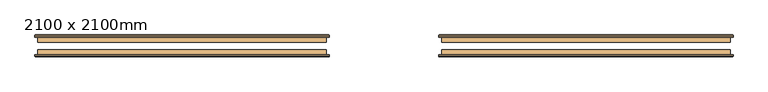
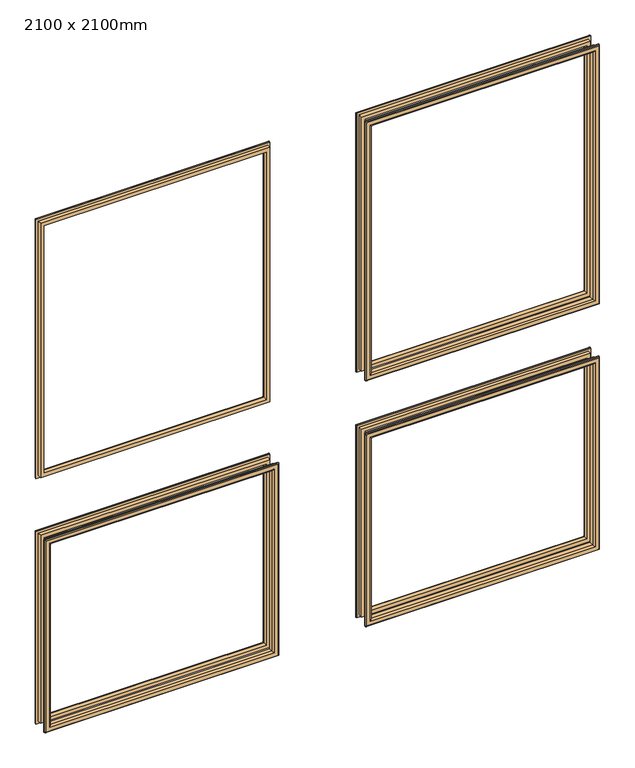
"""IFC4 building model written with IfcOpenShell, lengths in millimetres: door geometry, Дверь-Наружная-Двойная-Две_Свет : 2100 x 2100mm."""

from ifc_helpers import new_model, si_unit, frame, origin, place, context, project, spatial, ellipse_curve, source, transform, mapped, element, save
from ifc_brep_helpers import plane_surface, cylinder_surface, advanced_brep


def door_2100_x_2100mm_2986aa5a(model_context):
    return source(origin(), model_context, "Body", "AdvancedBrep", [
        advanced_brep(
        [(-900.0, 68.85, 900.0), (-900.0, 81.35, 900.0), (-900.0, 81.35, 250.0), (-900.0, 68.85, 250.0), (-888.0, 82.35, 888.0), (-888.0, 68.85, 888.0), (-888.0, 68.85, 262.0), (-888.0, 82.35, 262.0), (-893.0, 87.35, 893.0), (-893.0, 87.35, 257.0), (-908.0, 85.35, 908.0), (-906.0, 87.35, 906.0), (-906.0, 87.35, 244.0), (-908.0, 85.35, 242.0), (-908.0, 81.35, 908.0), (-908.0, 81.35, 242.0), (-150.0, 81.35, 250.0), (-150.0, 68.85, 250.0), (-162.0, 68.85, 262.0), (-162.0, 82.35, 262.0), (-157.0, 87.35, 257.0), (-144.0, 87.35, 244.0), (-142.0, 85.35, 242.0), (-142.0, 81.35, 242.0), (-150.0, 81.35, 900.0), (-150.0, 68.85, 900.0), (-162.0, 68.85, 888.0), (-162.0, 82.35, 888.0), (-157.0, 87.35, 893.0), (-144.0, 87.35, 906.0), (-142.0, 85.35, 908.0), (-142.0, 81.35, 908.0)],
        [
            (0, 1),
            (1, 2),
            (2, 3),
            (3, 0),
            (4, 5),
            (5, 6),
            (6, 7),
            (7, 4),
            (8, 4, ellipse_curve(frame((-893.0, 82.35, 893.0), z_axis=(-0.7071067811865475, 0.0, -0.7071067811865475), x_axis=(-0.7071067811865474, 0.0, 0.7071067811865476)), 7.0710678, 5.0)),
            (7, 9, ellipse_curve(frame((-893.0, 82.35, 257.0), z_axis=(-0.7071067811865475, 0.0, 0.7071067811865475), x_axis=(0.7071067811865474, 0.0, 0.7071067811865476)), 7.0710678, 5.0)),
            (9, 8),
            (10, 11, ellipse_curve(frame((-906.0, 85.35, 906.0), z_axis=(-0.7071067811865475, 0.0, -0.7071067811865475), x_axis=(-0.7071067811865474, 0.0, 0.7071067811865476)), 2.8284271, 2.0)),
            (11, 12),
            (12, 13, ellipse_curve(frame((-906.0, 85.35, 244.0), z_axis=(-0.7071067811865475, 0.0, 0.7071067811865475), x_axis=(0.7071067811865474, 0.0, 0.7071067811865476)), 2.8284271, 2.0)),
            (13, 10),
            (14, 10),
            (13, 15),
            (15, 14),
            (2, 16),
            (16, 17),
            (17, 3),
            (6, 18),
            (18, 19),
            (19, 7),
            (19, 20, ellipse_curve(frame((-157.0, 82.35, 257.0), z_axis=(-0.7071067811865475, 0.0, -0.7071067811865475), x_axis=(-0.7071067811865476, 0.0, 0.7071067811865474)), 7.0710678, 5.0)),
            (20, 9),
            (12, 21),
            (21, 22, ellipse_curve(frame((-144.0, 85.35, 244.0), z_axis=(-0.7071067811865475, 0.0, -0.7071067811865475), x_axis=(-0.7071067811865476, 0.0, 0.7071067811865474)), 2.8284271, 2.0)),
            (22, 13),
            (22, 23),
            (23, 15),
            (16, 24),
            (24, 25),
            (25, 17),
            (18, 26),
            (26, 27),
            (27, 19),
            (27, 28, ellipse_curve(frame((-157.0, 82.35, 893.0), z_axis=(0.7071067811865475, 0.0, -0.7071067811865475), x_axis=(-0.7071067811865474, 0.0, -0.7071067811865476)), 7.0710678, 5.0)),
            (28, 20),
            (21, 29),
            (29, 30, ellipse_curve(frame((-144.0, 85.35, 906.0), z_axis=(0.7071067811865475, 0.0, -0.7071067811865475), x_axis=(-0.7071067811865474, 0.0, -0.7071067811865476)), 2.8284271, 2.0)),
            (30, 22),
            (30, 31),
            (31, 23),
            (31, 14),
            (1, 24),
            (0, 25),
            (5, 26),
            (4, 27),
            (8, 28),
            (11, 29),
            (10, 30),
        ],
        [
            plane_surface(frame((-900.0, 81.35, 900.0), z_axis=(-1.0, 0.0, 0.0), x_axis=(0.0, 0.0, -1.0))),
            plane_surface(frame((-888.0, 68.85, 888.0), z_axis=(1.0, 0.0, 0.0), x_axis=(0.0, 0.0, -1.0))),
            cylinder_surface(frame((-893.0, 82.35, 900.0), z_axis=(0.0, 0.0, 1.0), x_axis=(-1.0, 0.0, 0.0)), 5.0),
            cylinder_surface(frame((-906.0, 85.35, 900.0), z_axis=(0.0, 0.0, 1.0), x_axis=(-1.0, 0.0, 0.0)), 2.0),
            plane_surface(frame((-908.0, 85.35, 908.0), z_axis=(-1.0, 0.0, 0.0), x_axis=(0.0, 0.0, -1.0))),
            plane_surface(frame((-900.0, 81.35, 250.0), z_axis=(0.0, 0.0, -1.0), x_axis=(1.0, 0.0, 0.0))),
            plane_surface(frame((-888.0, 68.85, 262.0), z_axis=(0.0, 0.0, 1.0), x_axis=(1.0, 0.0, 0.0))),
            cylinder_surface(frame((-900.0, 82.35, 257.0), z_axis=(-1.0, 0.0, 0.0), x_axis=(0.0, 0.0, -1.0)), 5.0),
            cylinder_surface(frame((-900.0, 85.35, 244.0), z_axis=(-1.0, 0.0, 0.0), x_axis=(0.0, 0.0, -1.0)), 2.0),
            plane_surface(frame((-908.0, 85.35, 242.0), z_axis=(0.0, 0.0, -1.0), x_axis=(1.0, 0.0, 0.0))),
            plane_surface(frame((-150.0, 81.35, 250.0), z_axis=(1.0, 0.0, 0.0), x_axis=(0.0, 0.0, 1.0))),
            plane_surface(frame((-162.0, 68.85, 262.0), z_axis=(-1.0, 0.0, 0.0), x_axis=(0.0, 0.0, 1.0))),
            cylinder_surface(frame((-157.0, 82.35, 250.0), z_axis=(0.0, 0.0, -1.0), x_axis=(1.0, 0.0, 0.0)), 5.0),
            cylinder_surface(frame((-144.0, 85.35, 250.0), z_axis=(0.0, 0.0, -1.0), x_axis=(1.0, 0.0, 0.0)), 2.0),
            plane_surface(frame((-142.0, 85.35, 242.0), z_axis=(1.0, 0.0, 0.0), x_axis=(0.0, 0.0, 1.0))),
            plane_surface(frame((-142.0, 81.35, 908.0), z_axis=(0.0, -1.0, 0.0), x_axis=(-1.0, 0.0, 0.0))),
            plane_surface(frame((-150.0, 81.35, 900.0), z_axis=(0.0, 0.0, 1.0), x_axis=(-1.0, 0.0, 0.0))),
            plane_surface(frame((-150.0, 68.85, 900.0), z_axis=(0.0, -1.0, 0.0), x_axis=(-1.0, 0.0, 0.0))),
            plane_surface(frame((-162.0, 68.85, 888.0), z_axis=(0.0, 0.0, -1.0), x_axis=(-1.0, 0.0, 0.0))),
            cylinder_surface(frame((-150.0, 82.35, 893.0), z_axis=(1.0, 0.0, 0.0), x_axis=(0.0, 0.0, 1.0)), 5.0),
            plane_surface(frame((-157.0, 87.35, 893.0), z_axis=(0.0, 1.0, 0.0), x_axis=(-1.0, 0.0, 0.0))),
            cylinder_surface(frame((-150.0, 85.35, 906.0), z_axis=(1.0, 0.0, 0.0), x_axis=(0.0, 0.0, 1.0)), 2.0),
            plane_surface(frame((-142.0, 85.35, 908.0), z_axis=(0.0, 0.0, 1.0), x_axis=(-1.0, 0.0, 0.0))),
        ],
        [
            (0, [[1, 2, 3, 4]]),
            (1, [[5, 6, 7, 8]]),
            (2, [[9, -8, 10, 11]]),
            (3, [[12, 13, 14, 15]]),
            (4, [[16, -15, 17, 18]]),
            (5, [[-3, 19, 20, 21]]),
            (6, [[-7, 22, 23, 24]]),
            (7, [[-10, -24, 25, 26]]),
            (8, [[-14, 27, 28, 29]]),
            (9, [[-17, -29, 30, 31]]),
            (10, [[-20, 32, 33, 34]]),
            (11, [[-23, 35, 36, 37]]),
            (12, [[-25, -37, 38, 39]]),
            (13, [[-28, 40, 41, 42]]),
            (14, [[-30, -42, 43, 44]]),
            (15, [[-31, -44, 45, -18], [46, -32, -19, -2]]),
            (16, [[-33, -46, -1, 47]]),
            (17, [[-21, -34, -47, -4], [48, -35, -22, -6]]),
            (18, [[-36, -48, -5, 49]]),
            (19, [[-38, -49, -9, 50]]),
            (20, [[51, -40, -27, -13], [-26, -39, -50, -11]]),
            (21, [[-41, -51, -12, 52]]),
            (22, [[-43, -52, -16, -45]]),
        ],
    ),
        advanced_brep(
        [(150.0, 68.85, 900.0), (150.0, 81.35, 900.0), (150.0, 81.35, 250.0), (150.0, 68.85, 250.0), (162.0, 82.35, 888.0), (162.0, 68.85, 888.0), (162.0, 68.85, 262.0), (162.0, 82.35, 262.0), (157.0, 87.35, 893.0), (157.0, 87.35, 257.0), (142.0, 85.35, 908.0), (144.0, 87.35, 906.0), (144.0, 87.35, 244.0), (142.0, 85.35, 242.0), (142.0, 81.35, 908.0), (142.0, 81.35, 242.0), (900.0, 81.35, 250.0), (900.0, 68.85, 250.0), (888.0, 68.85, 262.0), (888.0, 82.35, 262.0), (893.0, 87.35, 257.0), (906.0, 87.35, 244.0), (908.0, 85.35, 242.0), (908.0, 81.35, 242.0), (900.0, 81.35, 900.0), (900.0, 68.85, 900.0), (888.0, 68.85, 888.0), (888.0, 82.35, 888.0), (893.0, 87.35, 893.0), (906.0, 87.35, 906.0), (908.0, 85.35, 908.0), (908.0, 81.35, 908.0)],
        [
            (0, 1),
            (1, 2),
            (2, 3),
            (3, 0),
            (4, 5),
            (5, 6),
            (6, 7),
            (7, 4),
            (8, 4, ellipse_curve(frame((157.0, 82.35, 893.0), z_axis=(-0.7071067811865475, 0.0, -0.7071067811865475), x_axis=(-0.7071067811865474, 0.0, 0.7071067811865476)), 7.0710678, 5.0)),
            (7, 9, ellipse_curve(frame((157.0, 82.35, 257.0), z_axis=(-0.7071067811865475, 0.0, 0.7071067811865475), x_axis=(0.7071067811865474, 0.0, 0.7071067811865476)), 7.0710678, 5.0)),
            (9, 8),
            (10, 11, ellipse_curve(frame((144.0, 85.35, 906.0), z_axis=(-0.7071067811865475, 0.0, -0.7071067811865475), x_axis=(-0.7071067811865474, 0.0, 0.7071067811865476)), 2.8284271, 2.0)),
            (11, 12),
            (12, 13, ellipse_curve(frame((144.0, 85.35, 244.0), z_axis=(-0.7071067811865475, 0.0, 0.7071067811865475), x_axis=(0.7071067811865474, 0.0, 0.7071067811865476)), 2.8284271, 2.0)),
            (13, 10),
            (14, 10),
            (13, 15),
            (15, 14),
            (2, 16),
            (16, 17),
            (17, 3),
            (6, 18),
            (18, 19),
            (19, 7),
            (19, 20, ellipse_curve(frame((893.0, 82.35, 257.0), z_axis=(-0.7071067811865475, 0.0, -0.7071067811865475), x_axis=(-0.7071067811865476, 0.0, 0.7071067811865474)), 7.0710678, 5.0)),
            (20, 9),
            (12, 21),
            (21, 22, ellipse_curve(frame((906.0, 85.35, 244.0), z_axis=(-0.7071067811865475, 0.0, -0.7071067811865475), x_axis=(-0.7071067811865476, 0.0, 0.7071067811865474)), 2.8284271, 2.0)),
            (22, 13),
            (22, 23),
            (23, 15),
            (16, 24),
            (24, 25),
            (25, 17),
            (18, 26),
            (26, 27),
            (27, 19),
            (27, 28, ellipse_curve(frame((893.0, 82.35, 893.0), z_axis=(0.7071067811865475, 0.0, -0.7071067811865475), x_axis=(-0.7071067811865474, 0.0, -0.7071067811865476)), 7.0710678, 5.0)),
            (28, 20),
            (21, 29),
            (29, 30, ellipse_curve(frame((906.0, 85.35, 906.0), z_axis=(0.7071067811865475, 0.0, -0.7071067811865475), x_axis=(-0.7071067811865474, 0.0, -0.7071067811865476)), 2.8284271, 2.0)),
            (30, 22),
            (30, 31),
            (31, 23),
            (31, 14),
            (1, 24),
            (0, 25),
            (5, 26),
            (4, 27),
            (8, 28),
            (11, 29),
            (10, 30),
        ],
        [
            plane_surface(frame((150.0, 81.35, 900.0), z_axis=(-1.0, 0.0, 0.0), x_axis=(0.0, 0.0, -1.0))),
            plane_surface(frame((162.0, 68.85, 888.0), z_axis=(1.0, 0.0, 0.0), x_axis=(0.0, 0.0, -1.0))),
            cylinder_surface(frame((157.0, 82.35, 900.0), z_axis=(0.0, 0.0, 1.0), x_axis=(-1.0, 0.0, 0.0)), 5.0),
            cylinder_surface(frame((144.0, 85.35, 900.0), z_axis=(0.0, 0.0, 1.0), x_axis=(-1.0, 0.0, 0.0)), 2.0),
            plane_surface(frame((142.0, 85.35, 908.0), z_axis=(-1.0, 0.0, 0.0), x_axis=(0.0, 0.0, -1.0))),
            plane_surface(frame((150.0, 81.35, 250.0), z_axis=(0.0, 0.0, -1.0), x_axis=(1.0, 0.0, 0.0))),
            plane_surface(frame((162.0, 68.85, 262.0), z_axis=(0.0, 0.0, 1.0), x_axis=(1.0, 0.0, 0.0))),
            cylinder_surface(frame((150.0, 82.35, 257.0), z_axis=(-1.0, 0.0, 0.0), x_axis=(0.0, 0.0, -1.0)), 5.0),
            cylinder_surface(frame((150.0, 85.35, 244.0), z_axis=(-1.0, 0.0, 0.0), x_axis=(0.0, 0.0, -1.0)), 2.0),
            plane_surface(frame((142.0, 85.35, 242.0), z_axis=(0.0, 0.0, -1.0), x_axis=(1.0, 0.0, 0.0))),
            plane_surface(frame((900.0, 81.35, 250.0), z_axis=(1.0, 0.0, 0.0), x_axis=(0.0, 0.0, 1.0))),
            plane_surface(frame((888.0, 68.85, 262.0), z_axis=(-1.0, 0.0, 0.0), x_axis=(0.0, 0.0, 1.0))),
            cylinder_surface(frame((893.0, 82.35, 250.0), z_axis=(0.0, 0.0, -1.0), x_axis=(1.0, 0.0, 0.0)), 5.0),
            cylinder_surface(frame((906.0, 85.35, 250.0), z_axis=(0.0, 0.0, -1.0), x_axis=(1.0, 0.0, 0.0)), 2.0),
            plane_surface(frame((908.0, 85.35, 242.0), z_axis=(1.0, 0.0, 0.0), x_axis=(0.0, 0.0, 1.0))),
            plane_surface(frame((908.0, 81.35, 908.0), z_axis=(0.0, -1.0, 0.0), x_axis=(-1.0, 0.0, 0.0))),
            plane_surface(frame((900.0, 81.35, 900.0), z_axis=(0.0, 0.0, 1.0), x_axis=(-1.0, 0.0, 0.0))),
            plane_surface(frame((900.0, 68.85, 900.0), z_axis=(0.0, -1.0, 0.0), x_axis=(-1.0, 0.0, 0.0))),
            plane_surface(frame((888.0, 68.85, 888.0), z_axis=(0.0, 0.0, -1.0), x_axis=(-1.0, 0.0, 0.0))),
            cylinder_surface(frame((900.0, 82.35, 893.0), z_axis=(1.0, 0.0, 0.0), x_axis=(0.0, 0.0, 1.0)), 5.0),
            plane_surface(frame((893.0, 87.35, 893.0), z_axis=(0.0, 1.0, 0.0), x_axis=(-1.0, 0.0, 0.0))),
            cylinder_surface(frame((900.0, 85.35, 906.0), z_axis=(1.0, 0.0, 0.0), x_axis=(0.0, 0.0, 1.0)), 2.0),
            plane_surface(frame((908.0, 85.35, 908.0), z_axis=(0.0, 0.0, 1.0), x_axis=(-1.0, 0.0, 0.0))),
        ],
        [
            (0, [[1, 2, 3, 4]]),
            (1, [[5, 6, 7, 8]]),
            (2, [[9, -8, 10, 11]]),
            (3, [[12, 13, 14, 15]]),
            (4, [[16, -15, 17, 18]]),
            (5, [[-3, 19, 20, 21]]),
            (6, [[-7, 22, 23, 24]]),
            (7, [[-10, -24, 25, 26]]),
            (8, [[-14, 27, 28, 29]]),
            (9, [[-17, -29, 30, 31]]),
            (10, [[-20, 32, 33, 34]]),
            (11, [[-23, 35, 36, 37]]),
            (12, [[-25, -37, 38, 39]]),
            (13, [[-28, 40, 41, 42]]),
            (14, [[-30, -42, 43, 44]]),
            (15, [[-31, -44, 45, -18], [46, -32, -19, -2]]),
            (16, [[-33, -46, -1, 47]]),
            (17, [[-21, -34, -47, -4], [48, -35, -22, -6]]),
            (18, [[-36, -48, -5, 49]]),
            (19, [[-38, -49, -9, 50]]),
            (20, [[51, -40, -27, -13], [-26, -39, -50, -11]]),
            (21, [[-41, -51, -12, 52]]),
            (22, [[-43, -52, -16, -45]]),
        ],
    ),
        advanced_brep(
        [(150.0, 68.85, 1980.0), (150.0, 81.35, 1980.0), (150.0, 81.35, 1100.0), (150.0, 68.85, 1100.0), (162.0, 82.35, 1968.0), (162.0, 68.85, 1968.0), (162.0, 68.85, 1112.0), (162.0, 82.35, 1112.0), (157.0, 87.35, 1973.0), (157.0, 87.35, 1107.0), (142.0, 85.35, 1988.0), (144.0, 87.35, 1986.0), (144.0, 87.35, 1094.0), (142.0, 85.35, 1092.0), (142.0, 81.35, 1988.0), (142.0, 81.35, 1092.0), (900.0, 81.35, 1100.0), (900.0, 68.85, 1100.0), (888.0, 68.85, 1112.0), (888.0, 82.35, 1112.0), (893.0, 87.35, 1107.0), (906.0, 87.35, 1094.0), (908.0, 85.35, 1092.0), (908.0, 81.35, 1092.0), (900.0, 81.35, 1980.0), (900.0, 68.85, 1980.0), (888.0, 68.85, 1968.0), (888.0, 82.35, 1968.0), (893.0, 87.35, 1973.0), (906.0, 87.35, 1986.0), (908.0, 85.35, 1988.0), (908.0, 81.35, 1988.0)],
        [
            (0, 1),
            (1, 2),
            (2, 3),
            (3, 0),
            (4, 5),
            (5, 6),
            (6, 7),
            (7, 4),
            (8, 4, ellipse_curve(frame((157.0, 82.35, 1973.0), z_axis=(-0.7071067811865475, 0.0, -0.7071067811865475), x_axis=(-0.7071067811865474, 0.0, 0.7071067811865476)), 7.0710678, 5.0)),
            (7, 9, ellipse_curve(frame((157.0, 82.35, 1107.0), z_axis=(-0.7071067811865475, 0.0, 0.7071067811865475), x_axis=(0.7071067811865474, 0.0, 0.7071067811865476)), 7.0710678, 5.0)),
            (9, 8),
            (10, 11, ellipse_curve(frame((144.0, 85.35, 1986.0), z_axis=(-0.7071067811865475, 0.0, -0.7071067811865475), x_axis=(-0.7071067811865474, 0.0, 0.7071067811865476)), 2.8284271, 2.0)),
            (11, 12),
            (12, 13, ellipse_curve(frame((144.0, 85.35, 1094.0), z_axis=(-0.7071067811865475, 0.0, 0.7071067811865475), x_axis=(0.7071067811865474, 0.0, 0.7071067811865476)), 2.8284271, 2.0)),
            (13, 10),
            (14, 10),
            (13, 15),
            (15, 14),
            (2, 16),
            (16, 17),
            (17, 3),
            (6, 18),
            (18, 19),
            (19, 7),
            (19, 20, ellipse_curve(frame((893.0, 82.35, 1107.0), z_axis=(-0.7071067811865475, 0.0, -0.7071067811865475), x_axis=(-0.7071067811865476, 0.0, 0.7071067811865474)), 7.0710678, 5.0)),
            (20, 9),
            (12, 21),
            (21, 22, ellipse_curve(frame((906.0, 85.35, 1094.0), z_axis=(-0.7071067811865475, 0.0, -0.7071067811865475), x_axis=(-0.7071067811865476, 0.0, 0.7071067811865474)), 2.8284271, 2.0)),
            (22, 13),
            (22, 23),
            (23, 15),
            (16, 24),
            (24, 25),
            (25, 17),
            (18, 26),
            (26, 27),
            (27, 19),
            (27, 28, ellipse_curve(frame((893.0, 82.35, 1973.0), z_axis=(0.7071067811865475, 0.0, -0.7071067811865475), x_axis=(-0.7071067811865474, 0.0, -0.7071067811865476)), 7.0710678, 5.0)),
            (28, 20),
            (21, 29),
            (29, 30, ellipse_curve(frame((906.0, 85.35, 1986.0), z_axis=(0.7071067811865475, 0.0, -0.7071067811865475), x_axis=(-0.7071067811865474, 0.0, -0.7071067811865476)), 2.8284271, 2.0)),
            (30, 22),
            (30, 31),
            (31, 23),
            (31, 14),
            (1, 24),
            (0, 25),
            (5, 26),
            (4, 27),
            (8, 28),
            (11, 29),
            (10, 30),
        ],
        [
            plane_surface(frame((150.0, 81.35, 1980.0), z_axis=(-1.0, 0.0, 0.0), x_axis=(0.0, 0.0, -1.0))),
            plane_surface(frame((162.0, 68.85, 1968.0), z_axis=(1.0, 0.0, 0.0), x_axis=(0.0, 0.0, -1.0))),
            cylinder_surface(frame((157.0, 82.35, 1980.0), z_axis=(0.0, 0.0, 1.0), x_axis=(-1.0, 0.0, 0.0)), 5.0),
            cylinder_surface(frame((144.0, 85.35, 1980.0), z_axis=(0.0, 0.0, 1.0), x_axis=(-1.0, 0.0, 0.0)), 2.0),
            plane_surface(frame((142.0, 85.35, 1988.0), z_axis=(-1.0, 0.0, 0.0), x_axis=(0.0, 0.0, -1.0))),
            plane_surface(frame((150.0, 81.35, 1100.0), z_axis=(0.0, 0.0, -1.0), x_axis=(1.0, 0.0, 0.0))),
            plane_surface(frame((162.0, 68.85, 1112.0), z_axis=(0.0, 0.0, 1.0), x_axis=(1.0, 0.0, 0.0))),
            cylinder_surface(frame((150.0, 82.35, 1107.0), z_axis=(-1.0, 0.0, 0.0), x_axis=(0.0, 0.0, -1.0)), 5.0),
            cylinder_surface(frame((150.0, 85.35, 1094.0), z_axis=(-1.0, 0.0, 0.0), x_axis=(0.0, 0.0, -1.0)), 2.0),
            plane_surface(frame((142.0, 85.35, 1092.0), z_axis=(0.0, 0.0, -1.0), x_axis=(1.0, 0.0, 0.0))),
            plane_surface(frame((900.0, 81.35, 1100.0), z_axis=(1.0, 0.0, 0.0), x_axis=(0.0, 0.0, 1.0))),
            plane_surface(frame((888.0, 68.85, 1112.0), z_axis=(-1.0, 0.0, 0.0), x_axis=(0.0, 0.0, 1.0))),
            cylinder_surface(frame((893.0, 82.35, 1100.0), z_axis=(0.0, 0.0, -1.0), x_axis=(1.0, 0.0, 0.0)), 5.0),
            cylinder_surface(frame((906.0, 85.35, 1100.0), z_axis=(0.0, 0.0, -1.0), x_axis=(1.0, 0.0, 0.0)), 2.0),
            plane_surface(frame((908.0, 85.35, 1092.0), z_axis=(1.0, 0.0, 0.0), x_axis=(0.0, 0.0, 1.0))),
            plane_surface(frame((908.0, 81.35, 1988.0), z_axis=(0.0, -1.0, 0.0), x_axis=(-1.0, 0.0, 0.0))),
            plane_surface(frame((900.0, 81.35, 1980.0), z_axis=(0.0, 0.0, 1.0), x_axis=(-1.0, 0.0, 0.0))),
            plane_surface(frame((900.0, 68.85, 1980.0), z_axis=(0.0, -1.0, 0.0), x_axis=(-1.0, 0.0, 0.0))),
            plane_surface(frame((888.0, 68.85, 1968.0), z_axis=(0.0, 0.0, -1.0), x_axis=(-1.0, 0.0, 0.0))),
            cylinder_surface(frame((900.0, 82.35, 1973.0), z_axis=(1.0, 0.0, 0.0), x_axis=(0.0, 0.0, 1.0)), 5.0),
            plane_surface(frame((893.0, 87.35, 1973.0), z_axis=(0.0, 1.0, 0.0), x_axis=(-1.0, 0.0, 0.0))),
            cylinder_surface(frame((900.0, 85.35, 1986.0), z_axis=(1.0, 0.0, 0.0), x_axis=(0.0, 0.0, 1.0)), 2.0),
            plane_surface(frame((908.0, 85.35, 1988.0), z_axis=(0.0, 0.0, 1.0), x_axis=(-1.0, 0.0, 0.0))),
        ],
        [
            (0, [[1, 2, 3, 4]]),
            (1, [[5, 6, 7, 8]]),
            (2, [[9, -8, 10, 11]]),
            (3, [[12, 13, 14, 15]]),
            (4, [[16, -15, 17, 18]]),
            (5, [[-3, 19, 20, 21]]),
            (6, [[-7, 22, 23, 24]]),
            (7, [[-10, -24, 25, 26]]),
            (8, [[-14, 27, 28, 29]]),
            (9, [[-17, -29, 30, 31]]),
            (10, [[-20, 32, 33, 34]]),
            (11, [[-23, 35, 36, 37]]),
            (12, [[-25, -37, 38, 39]]),
            (13, [[-28, 40, 41, 42]]),
            (14, [[-30, -42, 43, 44]]),
            (15, [[-31, -44, 45, -18], [46, -32, -19, -2]]),
            (16, [[-33, -46, -1, 47]]),
            (17, [[-21, -34, -47, -4], [48, -35, -22, -6]]),
            (18, [[-36, -48, -5, 49]]),
            (19, [[-38, -49, -9, 50]]),
            (20, [[51, -40, -27, -13], [-26, -39, -50, -11]]),
            (21, [[-41, -51, -12, 52]]),
            (22, [[-43, -52, -16, -45]]),
        ],
    ),
        advanced_brep(
        [(-900.0, 68.85, 1980.0), (-900.0, 81.35, 1980.0), (-900.0, 81.35, 1100.0), (-900.0, 68.85, 1100.0), (-888.0, 82.35, 1968.0), (-888.0, 68.85, 1968.0), (-888.0, 68.85, 1112.0), (-888.0, 82.35, 1112.0), (-893.0, 87.35, 1973.0), (-893.0, 87.35, 1107.0), (-908.0, 85.35, 1988.0), (-906.0, 87.35, 1986.0), (-906.0, 87.35, 1094.0), (-908.0, 85.35, 1092.0), (-908.0, 81.35, 1988.0), (-908.0, 81.35, 1092.0), (-150.0, 81.35, 1100.0), (-150.0, 68.85, 1100.0), (-162.0, 68.85, 1112.0), (-162.0, 82.35, 1112.0), (-157.0, 87.35, 1107.0), (-144.0, 87.35, 1094.0), (-142.0, 85.35, 1092.0), (-142.0, 81.35, 1092.0), (-150.0, 81.35, 1980.0), (-150.0, 68.85, 1980.0), (-162.0, 68.85, 1968.0), (-162.0, 82.35, 1968.0), (-157.0, 87.35, 1973.0), (-144.0, 87.35, 1986.0), (-142.0, 85.35, 1988.0), (-142.0, 81.35, 1988.0)],
        [
            (0, 1),
            (1, 2),
            (2, 3),
            (3, 0),
            (4, 5),
            (5, 6),
            (6, 7),
            (7, 4),
            (8, 4, ellipse_curve(frame((-893.0, 82.35, 1973.0), z_axis=(-0.7071067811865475, 0.0, -0.7071067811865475), x_axis=(-0.7071067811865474, 0.0, 0.7071067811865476)), 7.0710678, 5.0)),
            (7, 9, ellipse_curve(frame((-893.0, 82.35, 1107.0), z_axis=(-0.7071067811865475, 0.0, 0.7071067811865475), x_axis=(0.7071067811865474, 0.0, 0.7071067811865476)), 7.0710678, 5.0)),
            (9, 8),
            (10, 11, ellipse_curve(frame((-906.0, 85.35, 1986.0), z_axis=(-0.7071067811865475, 0.0, -0.7071067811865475), x_axis=(-0.7071067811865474, 0.0, 0.7071067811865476)), 2.8284271, 2.0)),
            (11, 12),
            (12, 13, ellipse_curve(frame((-906.0, 85.35, 1094.0), z_axis=(-0.7071067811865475, 0.0, 0.7071067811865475), x_axis=(0.7071067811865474, 0.0, 0.7071067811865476)), 2.8284271, 2.0)),
            (13, 10),
            (14, 10),
            (13, 15),
            (15, 14),
            (2, 16),
            (16, 17),
            (17, 3),
            (6, 18),
            (18, 19),
            (19, 7),
            (19, 20, ellipse_curve(frame((-157.0, 82.35, 1107.0), z_axis=(-0.7071067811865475, 0.0, -0.7071067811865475), x_axis=(-0.7071067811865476, 0.0, 0.7071067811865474)), 7.0710678, 5.0)),
            (20, 9),
            (12, 21),
            (21, 22, ellipse_curve(frame((-144.0, 85.35, 1094.0), z_axis=(-0.7071067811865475, 0.0, -0.7071067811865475), x_axis=(-0.7071067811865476, 0.0, 0.7071067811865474)), 2.8284271, 2.0)),
            (22, 13),
            (22, 23),
            (23, 15),
            (16, 24),
            (24, 25),
            (25, 17),
            (18, 26),
            (26, 27),
            (27, 19),
            (27, 28, ellipse_curve(frame((-157.0, 82.35, 1973.0), z_axis=(0.7071067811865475, 0.0, -0.7071067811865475), x_axis=(-0.7071067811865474, 0.0, -0.7071067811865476)), 7.0710678, 5.0)),
            (28, 20),
            (21, 29),
            (29, 30, ellipse_curve(frame((-144.0, 85.35, 1986.0), z_axis=(0.7071067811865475, 0.0, -0.7071067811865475), x_axis=(-0.7071067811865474, 0.0, -0.7071067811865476)), 2.8284271, 2.0)),
            (30, 22),
            (30, 31),
            (31, 23),
            (31, 14),
            (1, 24),
            (0, 25),
            (5, 26),
            (4, 27),
            (8, 28),
            (11, 29),
            (10, 30),
        ],
        [
            plane_surface(frame((-900.0, 81.35, 1980.0), z_axis=(-1.0, 0.0, 0.0), x_axis=(0.0, 0.0, -1.0))),
            plane_surface(frame((-888.0, 68.85, 1968.0), z_axis=(1.0, 0.0, 0.0), x_axis=(0.0, 0.0, -1.0))),
            cylinder_surface(frame((-893.0, 82.35, 1980.0), z_axis=(0.0, 0.0, 1.0), x_axis=(-1.0, 0.0, 0.0)), 5.0),
            cylinder_surface(frame((-906.0, 85.35, 1980.0), z_axis=(0.0, 0.0, 1.0), x_axis=(-1.0, 0.0, 0.0)), 2.0),
            plane_surface(frame((-908.0, 85.35, 1988.0), z_axis=(-1.0, 0.0, 0.0), x_axis=(0.0, 0.0, -1.0))),
            plane_surface(frame((-900.0, 81.35, 1100.0), z_axis=(0.0, 0.0, -1.0), x_axis=(1.0, 0.0, 0.0))),
            plane_surface(frame((-888.0, 68.85, 1112.0), z_axis=(0.0, 0.0, 1.0), x_axis=(1.0, 0.0, 0.0))),
            cylinder_surface(frame((-900.0, 82.35, 1107.0), z_axis=(-1.0, 0.0, 0.0), x_axis=(0.0, 0.0, -1.0)), 5.0),
            cylinder_surface(frame((-900.0, 85.35, 1094.0), z_axis=(-1.0, 0.0, 0.0), x_axis=(0.0, 0.0, -1.0)), 2.0),
            plane_surface(frame((-908.0, 85.35, 1092.0), z_axis=(0.0, 0.0, -1.0), x_axis=(1.0, 0.0, 0.0))),
            plane_surface(frame((-150.0, 81.35, 1100.0), z_axis=(1.0, 0.0, 0.0), x_axis=(0.0, 0.0, 1.0))),
            plane_surface(frame((-162.0, 68.85, 1112.0), z_axis=(-1.0, 0.0, 0.0), x_axis=(0.0, 0.0, 1.0))),
            cylinder_surface(frame((-157.0, 82.35, 1100.0), z_axis=(0.0, 0.0, -1.0), x_axis=(1.0, 0.0, 0.0)), 5.0),
            cylinder_surface(frame((-144.0, 85.35, 1100.0), z_axis=(0.0, 0.0, -1.0), x_axis=(1.0, 0.0, 0.0)), 2.0),
            plane_surface(frame((-142.0, 85.35, 1092.0), z_axis=(1.0, 0.0, 0.0), x_axis=(0.0, 0.0, 1.0))),
            plane_surface(frame((-142.0, 81.35, 1988.0), z_axis=(0.0, -1.0, 0.0), x_axis=(-1.0, 0.0, 0.0))),
            plane_surface(frame((-150.0, 81.35, 1980.0), z_axis=(0.0, 0.0, 1.0), x_axis=(-1.0, 0.0, 0.0))),
            plane_surface(frame((-150.0, 68.85, 1980.0), z_axis=(0.0, -1.0, 0.0), x_axis=(-1.0, 0.0, 0.0))),
            plane_surface(frame((-162.0, 68.85, 1968.0), z_axis=(0.0, 0.0, -1.0), x_axis=(-1.0, 0.0, 0.0))),
            cylinder_surface(frame((-150.0, 82.35, 1973.0), z_axis=(1.0, 0.0, 0.0), x_axis=(0.0, 0.0, 1.0)), 5.0),
            plane_surface(frame((-157.0, 87.35, 1973.0), z_axis=(0.0, 1.0, 0.0), x_axis=(-1.0, 0.0, 0.0))),
            cylinder_surface(frame((-150.0, 85.35, 1986.0), z_axis=(1.0, 0.0, 0.0), x_axis=(0.0, 0.0, 1.0)), 2.0),
            plane_surface(frame((-142.0, 85.35, 1988.0), z_axis=(0.0, 0.0, 1.0), x_axis=(-1.0, 0.0, 0.0))),
        ],
        [
            (0, [[1, 2, 3, 4]]),
            (1, [[5, 6, 7, 8]]),
            (2, [[9, -8, 10, 11]]),
            (3, [[12, 13, 14, 15]]),
            (4, [[16, -15, 17, 18]]),
            (5, [[-3, 19, 20, 21]]),
            (6, [[-7, 22, 23, 24]]),
            (7, [[-10, -24, 25, 26]]),
            (8, [[-14, 27, 28, 29]]),
            (9, [[-17, -29, 30, 31]]),
            (10, [[-20, 32, 33, 34]]),
            (11, [[-23, 35, 36, 37]]),
            (12, [[-25, -37, 38, 39]]),
            (13, [[-28, 40, 41, 42]]),
            (14, [[-30, -42, 43, 44]]),
            (15, [[-31, -44, 45, -18], [46, -32, -19, -2]]),
            (16, [[-33, -46, -1, 47]]),
            (17, [[-21, -34, -47, -4], [48, -35, -22, -6]]),
            (18, [[-36, -48, -5, 49]]),
            (19, [[-38, -49, -9, 50]]),
            (20, [[51, -40, -27, -13], [-26, -39, -50, -11]]),
            (21, [[-41, -51, -12, 52]]),
            (22, [[-43, -52, -16, -45]]),
        ],
    ),
        advanced_brep(
        [(-900.0, 48.85, 250.0), (-900.0, 36.35, 250.0), (-900.0, 36.35, 900.0), (-900.0, 48.85, 900.0), (-888.0, 35.35, 262.0), (-888.0, 48.85, 262.0), (-888.0, 48.85, 888.0), (-888.0, 35.35, 888.0), (-893.0, 30.35, 257.0), (-893.0, 30.35, 893.0), (-908.0, 32.35, 242.0), (-906.0, 30.35, 244.0), (-906.0, 30.35, 906.0), (-908.0, 32.35, 908.0), (-908.0, 36.35, 242.0), (-908.0, 36.35, 908.0), (-150.0, 36.35, 900.0), (-150.0, 48.85, 900.0), (-162.0, 48.85, 888.0), (-162.0, 35.35, 888.0), (-157.0, 30.35, 893.0), (-144.0, 30.35, 906.0), (-142.0, 32.35, 908.0), (-142.0, 36.35, 908.0), (-150.0, 36.35, 250.0), (-150.0, 48.85, 250.0), (-162.0, 48.85, 262.0), (-162.0, 35.35, 262.0), (-157.0, 30.35, 257.0), (-144.0, 30.35, 244.0), (-142.0, 32.35, 242.0), (-142.0, 36.35, 242.0)],
        [
            (0, 1),
            (1, 2),
            (2, 3),
            (3, 0),
            (4, 5),
            (5, 6),
            (6, 7),
            (7, 4),
            (8, 4, ellipse_curve(frame((-893.0, 35.35, 257.0), z_axis=(-0.7071067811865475, 0.0, 0.7071067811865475), x_axis=(-0.7071067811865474, 0.0, -0.7071067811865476)), 7.0710678, 5.0)),
            (7, 9, ellipse_curve(frame((-893.0, 35.35, 893.0), z_axis=(-0.7071067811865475, 0.0, -0.7071067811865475), x_axis=(0.7071067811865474, 0.0, -0.7071067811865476)), 7.0710678, 5.0)),
            (9, 8),
            (10, 11, ellipse_curve(frame((-906.0, 32.35, 244.0), z_axis=(-0.7071067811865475, 0.0, 0.7071067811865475), x_axis=(-0.7071067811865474, 0.0, -0.7071067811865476)), 2.8284271, 2.0)),
            (11, 12),
            (12, 13, ellipse_curve(frame((-906.0, 32.35, 906.0), z_axis=(-0.7071067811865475, 0.0, -0.7071067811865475), x_axis=(0.7071067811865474, 0.0, -0.7071067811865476)), 2.8284271, 2.0)),
            (13, 10),
            (14, 10),
            (13, 15),
            (15, 14),
            (2, 16),
            (16, 17),
            (17, 3),
            (6, 18),
            (18, 19),
            (19, 7),
            (19, 20, ellipse_curve(frame((-157.0, 35.35, 893.0), z_axis=(-0.7071067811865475, 0.0, 0.7071067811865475), x_axis=(-0.7071067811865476, 0.0, -0.7071067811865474)), 7.0710678, 5.0)),
            (20, 9),
            (12, 21),
            (21, 22, ellipse_curve(frame((-144.0, 32.35, 906.0), z_axis=(-0.7071067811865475, 0.0, 0.7071067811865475), x_axis=(-0.7071067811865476, 0.0, -0.7071067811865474)), 2.8284271, 2.0)),
            (22, 13),
            (22, 23),
            (23, 15),
            (16, 24),
            (24, 25),
            (25, 17),
            (18, 26),
            (26, 27),
            (27, 19),
            (27, 28, ellipse_curve(frame((-157.0, 35.35, 257.0), z_axis=(0.7071067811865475, 0.0, 0.7071067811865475), x_axis=(-0.7071067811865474, 0.0, 0.7071067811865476)), 7.0710678, 5.0)),
            (28, 20),
            (21, 29),
            (29, 30, ellipse_curve(frame((-144.0, 32.35, 244.0), z_axis=(0.7071067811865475, 0.0, 0.7071067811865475), x_axis=(-0.7071067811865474, 0.0, 0.7071067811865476)), 2.8284271, 2.0)),
            (30, 22),
            (30, 31),
            (31, 23),
            (31, 14),
            (1, 24),
            (0, 25),
            (5, 26),
            (4, 27),
            (8, 28),
            (11, 29),
            (10, 30),
        ],
        [
            plane_surface(frame((-900.0, 36.35, 250.0), z_axis=(-1.0, 0.0, 0.0), x_axis=(0.0, 0.0, 1.0))),
            plane_surface(frame((-888.0, 48.85, 262.0), z_axis=(1.0, 0.0, 0.0), x_axis=(0.0, 0.0, 1.0))),
            cylinder_surface(frame((-893.0, 35.35, 250.0), z_axis=(0.0, 0.0, -1.0), x_axis=(-1.0, 0.0, 0.0)), 5.0),
            cylinder_surface(frame((-906.0, 32.35, 250.0), z_axis=(0.0, 0.0, -1.0), x_axis=(-1.0, 0.0, 0.0)), 2.0),
            plane_surface(frame((-908.0, 32.35, 242.0), z_axis=(-1.0, 0.0, 0.0), x_axis=(0.0, 0.0, 1.0))),
            plane_surface(frame((-900.0, 36.35, 900.0), z_axis=(0.0, 0.0, 1.0), x_axis=(1.0, 0.0, 0.0))),
            plane_surface(frame((-888.0, 48.85, 888.0), z_axis=(0.0, 0.0, -1.0), x_axis=(1.0, 0.0, 0.0))),
            cylinder_surface(frame((-900.0, 35.35, 893.0), z_axis=(-1.0, 0.0, 0.0), x_axis=(0.0, 0.0, 1.0)), 5.0),
            cylinder_surface(frame((-900.0, 32.35, 906.0), z_axis=(-1.0, 0.0, 0.0), x_axis=(0.0, 0.0, 1.0)), 2.0),
            plane_surface(frame((-908.0, 32.35, 908.0), z_axis=(0.0, 0.0, 1.0), x_axis=(1.0, 0.0, 0.0))),
            plane_surface(frame((-150.0, 36.35, 900.0), z_axis=(1.0, 0.0, 0.0), x_axis=(0.0, 0.0, -1.0))),
            plane_surface(frame((-162.0, 48.85, 888.0), z_axis=(-1.0, 0.0, 0.0), x_axis=(0.0, 0.0, -1.0))),
            cylinder_surface(frame((-157.0, 35.35, 900.0), z_axis=(0.0, 0.0, 1.0), x_axis=(1.0, 0.0, 0.0)), 5.0),
            cylinder_surface(frame((-144.0, 32.35, 900.0), z_axis=(0.0, 0.0, 1.0), x_axis=(1.0, 0.0, 0.0)), 2.0),
            plane_surface(frame((-142.0, 32.35, 908.0), z_axis=(1.0, 0.0, 0.0), x_axis=(0.0, 0.0, -1.0))),
            plane_surface(frame((-142.0, 36.35, 242.0), z_axis=(0.0, 1.0, 0.0), x_axis=(-1.0, 0.0, 0.0))),
            plane_surface(frame((-150.0, 36.35, 250.0), z_axis=(0.0, 0.0, -1.0), x_axis=(-1.0, 0.0, 0.0))),
            plane_surface(frame((-150.0, 48.85, 250.0), z_axis=(0.0, 1.0, 0.0), x_axis=(-1.0, 0.0, 0.0))),
            plane_surface(frame((-162.0, 48.85, 262.0), z_axis=(0.0, 0.0, 1.0), x_axis=(-1.0, 0.0, 0.0))),
            cylinder_surface(frame((-150.0, 35.35, 257.0), z_axis=(1.0, 0.0, 0.0), x_axis=(0.0, 0.0, -1.0)), 5.0),
            plane_surface(frame((-157.0, 30.35, 257.0), z_axis=(0.0, -1.0, 0.0), x_axis=(-1.0, 0.0, 0.0))),
            cylinder_surface(frame((-150.0, 32.35, 244.0), z_axis=(1.0, 0.0, 0.0), x_axis=(0.0, 0.0, -1.0)), 2.0),
            plane_surface(frame((-142.0, 32.35, 242.0), z_axis=(0.0, 0.0, -1.0), x_axis=(-1.0, 0.0, 0.0))),
        ],
        [
            (0, [[1, 2, 3, 4]]),
            (1, [[5, 6, 7, 8]]),
            (2, [[9, -8, 10, 11]]),
            (3, [[12, 13, 14, 15]]),
            (4, [[16, -15, 17, 18]]),
            (5, [[-3, 19, 20, 21]]),
            (6, [[-7, 22, 23, 24]]),
            (7, [[-10, -24, 25, 26]]),
            (8, [[-14, 27, 28, 29]]),
            (9, [[-17, -29, 30, 31]]),
            (10, [[-20, 32, 33, 34]]),
            (11, [[-23, 35, 36, 37]]),
            (12, [[-25, -37, 38, 39]]),
            (13, [[-28, 40, 41, 42]]),
            (14, [[-30, -42, 43, 44]]),
            (15, [[-31, -44, 45, -18], [46, -32, -19, -2]]),
            (16, [[-33, -46, -1, 47]]),
            (17, [[-21, -34, -47, -4], [48, -35, -22, -6]]),
            (18, [[-36, -48, -5, 49]]),
            (19, [[-38, -49, -9, 50]]),
            (20, [[51, -40, -27, -13], [-26, -39, -50, -11]]),
            (21, [[-41, -51, -12, 52]]),
            (22, [[-43, -52, -16, -45]]),
        ],
    ),
        advanced_brep(
        [(150.0, 48.85, 250.0), (150.0, 36.35, 250.0), (150.0, 36.35, 900.0), (150.0, 48.85, 900.0), (162.0, 35.35, 262.0), (162.0, 48.85, 262.0), (162.0, 48.85, 888.0), (162.0, 35.35, 888.0), (157.0, 30.35, 257.0), (157.0, 30.35, 893.0), (142.0, 32.35, 242.0), (144.0, 30.35, 244.0), (144.0, 30.35, 906.0), (142.0, 32.35, 908.0), (142.0, 36.35, 242.0), (142.0, 36.35, 908.0), (900.0, 36.35, 900.0), (900.0, 48.85, 900.0), (888.0, 48.85, 888.0), (888.0, 35.35, 888.0), (893.0, 30.35, 893.0), (906.0, 30.35, 906.0), (908.0, 32.35, 908.0), (908.0, 36.35, 908.0), (900.0, 36.35, 250.0), (900.0, 48.85, 250.0), (888.0, 48.85, 262.0), (888.0, 35.35, 262.0), (893.0, 30.35, 257.0), (906.0, 30.35, 244.0), (908.0, 32.35, 242.0), (908.0, 36.35, 242.0)],
        [
            (0, 1),
            (1, 2),
            (2, 3),
            (3, 0),
            (4, 5),
            (5, 6),
            (6, 7),
            (7, 4),
            (8, 4, ellipse_curve(frame((157.0, 35.35, 257.0), z_axis=(-0.7071067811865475, 0.0, 0.7071067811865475), x_axis=(-0.7071067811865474, 0.0, -0.7071067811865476)), 7.0710678, 5.0)),
            (7, 9, ellipse_curve(frame((157.0, 35.35, 893.0), z_axis=(-0.7071067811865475, 0.0, -0.7071067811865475), x_axis=(0.7071067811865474, 0.0, -0.7071067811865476)), 7.0710678, 5.0)),
            (9, 8),
            (10, 11, ellipse_curve(frame((144.0, 32.35, 244.0), z_axis=(-0.7071067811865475, 0.0, 0.7071067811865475), x_axis=(-0.7071067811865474, 0.0, -0.7071067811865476)), 2.8284271, 2.0)),
            (11, 12),
            (12, 13, ellipse_curve(frame((144.0, 32.35, 906.0), z_axis=(-0.7071067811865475, 0.0, -0.7071067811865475), x_axis=(0.7071067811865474, 0.0, -0.7071067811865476)), 2.8284271, 2.0)),
            (13, 10),
            (14, 10),
            (13, 15),
            (15, 14),
            (2, 16),
            (16, 17),
            (17, 3),
            (6, 18),
            (18, 19),
            (19, 7),
            (19, 20, ellipse_curve(frame((893.0, 35.35, 893.0), z_axis=(-0.7071067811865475, 0.0, 0.7071067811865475), x_axis=(-0.7071067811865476, 0.0, -0.7071067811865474)), 7.0710678, 5.0)),
            (20, 9),
            (12, 21),
            (21, 22, ellipse_curve(frame((906.0, 32.35, 906.0), z_axis=(-0.7071067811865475, 0.0, 0.7071067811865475), x_axis=(-0.7071067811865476, 0.0, -0.7071067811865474)), 2.8284271, 2.0)),
            (22, 13),
            (22, 23),
            (23, 15),
            (16, 24),
            (24, 25),
            (25, 17),
            (18, 26),
            (26, 27),
            (27, 19),
            (27, 28, ellipse_curve(frame((893.0, 35.35, 257.0), z_axis=(0.7071067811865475, 0.0, 0.7071067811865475), x_axis=(-0.7071067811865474, 0.0, 0.7071067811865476)), 7.0710678, 5.0)),
            (28, 20),
            (21, 29),
            (29, 30, ellipse_curve(frame((906.0, 32.35, 244.0), z_axis=(0.7071067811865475, 0.0, 0.7071067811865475), x_axis=(-0.7071067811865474, 0.0, 0.7071067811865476)), 2.8284271, 2.0)),
            (30, 22),
            (30, 31),
            (31, 23),
            (31, 14),
            (1, 24),
            (0, 25),
            (5, 26),
            (4, 27),
            (8, 28),
            (11, 29),
            (10, 30),
        ],
        [
            plane_surface(frame((150.0, 36.35, 250.0), z_axis=(-1.0, 0.0, 0.0), x_axis=(0.0, 0.0, 1.0))),
            plane_surface(frame((162.0, 48.85, 262.0), z_axis=(1.0, 0.0, 0.0), x_axis=(0.0, 0.0, 1.0))),
            cylinder_surface(frame((157.0, 35.35, 250.0), z_axis=(0.0, 0.0, -1.0), x_axis=(-1.0, 0.0, 0.0)), 5.0),
            cylinder_surface(frame((144.0, 32.35, 250.0), z_axis=(0.0, 0.0, -1.0), x_axis=(-1.0, 0.0, 0.0)), 2.0),
            plane_surface(frame((142.0, 32.35, 242.0), z_axis=(-1.0, 0.0, 0.0), x_axis=(0.0, 0.0, 1.0))),
            plane_surface(frame((150.0, 36.35, 900.0), z_axis=(0.0, 0.0, 1.0), x_axis=(1.0, 0.0, 0.0))),
            plane_surface(frame((162.0, 48.85, 888.0), z_axis=(0.0, 0.0, -1.0), x_axis=(1.0, 0.0, 0.0))),
            cylinder_surface(frame((150.0, 35.35, 893.0), z_axis=(-1.0, 0.0, 0.0), x_axis=(0.0, 0.0, 1.0)), 5.0),
            cylinder_surface(frame((150.0, 32.35, 906.0), z_axis=(-1.0, 0.0, 0.0), x_axis=(0.0, 0.0, 1.0)), 2.0),
            plane_surface(frame((142.0, 32.35, 908.0), z_axis=(0.0, 0.0, 1.0), x_axis=(1.0, 0.0, 0.0))),
            plane_surface(frame((900.0, 36.35, 900.0), z_axis=(1.0, 0.0, 0.0), x_axis=(0.0, 0.0, -1.0))),
            plane_surface(frame((888.0, 48.85, 888.0), z_axis=(-1.0, 0.0, 0.0), x_axis=(0.0, 0.0, -1.0))),
            cylinder_surface(frame((893.0, 35.35, 900.0), z_axis=(0.0, 0.0, 1.0), x_axis=(1.0, 0.0, 0.0)), 5.0),
            cylinder_surface(frame((906.0, 32.35, 900.0), z_axis=(0.0, 0.0, 1.0), x_axis=(1.0, 0.0, 0.0)), 2.0),
            plane_surface(frame((908.0, 32.35, 908.0), z_axis=(1.0, 0.0, 0.0), x_axis=(0.0, 0.0, -1.0))),
            plane_surface(frame((908.0, 36.35, 242.0), z_axis=(0.0, 1.0, 0.0), x_axis=(-1.0, 0.0, 0.0))),
            plane_surface(frame((900.0, 36.35, 250.0), z_axis=(0.0, 0.0, -1.0), x_axis=(-1.0, 0.0, 0.0))),
            plane_surface(frame((900.0, 48.85, 250.0), z_axis=(0.0, 1.0, 0.0), x_axis=(-1.0, 0.0, 0.0))),
            plane_surface(frame((888.0, 48.85, 262.0), z_axis=(0.0, 0.0, 1.0), x_axis=(-1.0, 0.0, 0.0))),
            cylinder_surface(frame((900.0, 35.35, 257.0), z_axis=(1.0, 0.0, 0.0), x_axis=(0.0, 0.0, -1.0)), 5.0),
            plane_surface(frame((893.0, 30.35, 257.0), z_axis=(0.0, -1.0, 0.0), x_axis=(-1.0, 0.0, 0.0))),
            cylinder_surface(frame((900.0, 32.35, 244.0), z_axis=(1.0, 0.0, 0.0), x_axis=(0.0, 0.0, -1.0)), 2.0),
            plane_surface(frame((908.0, 32.35, 242.0), z_axis=(0.0, 0.0, -1.0), x_axis=(-1.0, 0.0, 0.0))),
        ],
        [
            (0, [[1, 2, 3, 4]]),
            (1, [[5, 6, 7, 8]]),
            (2, [[9, -8, 10, 11]]),
            (3, [[12, 13, 14, 15]]),
            (4, [[16, -15, 17, 18]]),
            (5, [[-3, 19, 20, 21]]),
            (6, [[-7, 22, 23, 24]]),
            (7, [[-10, -24, 25, 26]]),
            (8, [[-14, 27, 28, 29]]),
            (9, [[-17, -29, 30, 31]]),
            (10, [[-20, 32, 33, 34]]),
            (11, [[-23, 35, 36, 37]]),
            (12, [[-25, -37, 38, 39]]),
            (13, [[-28, 40, 41, 42]]),
            (14, [[-30, -42, 43, 44]]),
            (15, [[-31, -44, 45, -18], [46, -32, -19, -2]]),
            (16, [[-33, -46, -1, 47]]),
            (17, [[-21, -34, -47, -4], [48, -35, -22, -6]]),
            (18, [[-36, -48, -5, 49]]),
            (19, [[-38, -49, -9, 50]]),
            (20, [[51, -40, -27, -13], [-26, -39, -50, -11]]),
            (21, [[-41, -51, -12, 52]]),
            (22, [[-43, -52, -16, -45]]),
        ],
    ),
        advanced_brep(
        [(150.0, 48.85, 1100.0), (150.0, 36.35, 1100.0), (150.0, 36.35, 1980.0), (150.0, 48.85, 1980.0), (162.0, 35.35, 1112.0), (162.0, 48.85, 1112.0), (162.0, 48.85, 1968.0), (162.0, 35.35, 1968.0), (157.0, 30.35, 1107.0), (157.0, 30.35, 1973.0), (142.0, 32.35, 1092.0), (144.0, 30.35, 1094.0), (144.0, 30.35, 1986.0), (142.0, 32.35, 1988.0), (142.0, 36.35, 1092.0), (142.0, 36.35, 1988.0), (900.0, 36.35, 1980.0), (900.0, 48.85, 1980.0), (888.0, 48.85, 1968.0), (888.0, 35.35, 1968.0), (893.0, 30.35, 1973.0), (906.0, 30.35, 1986.0), (908.0, 32.35, 1988.0), (908.0, 36.35, 1988.0), (900.0, 36.35, 1100.0), (900.0, 48.85, 1100.0), (888.0, 48.85, 1112.0), (888.0, 35.35, 1112.0), (893.0, 30.35, 1107.0), (906.0, 30.35, 1094.0), (908.0, 32.35, 1092.0), (908.0, 36.35, 1092.0)],
        [
            (0, 1),
            (1, 2),
            (2, 3),
            (3, 0),
            (4, 5),
            (5, 6),
            (6, 7),
            (7, 4),
            (8, 4, ellipse_curve(frame((157.0, 35.35, 1107.0), z_axis=(-0.7071067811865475, 0.0, 0.7071067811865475), x_axis=(-0.7071067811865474, 0.0, -0.7071067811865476)), 7.0710678, 5.0)),
            (7, 9, ellipse_curve(frame((157.0, 35.35, 1973.0), z_axis=(-0.7071067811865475, 0.0, -0.7071067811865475), x_axis=(0.7071067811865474, 0.0, -0.7071067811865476)), 7.0710678, 5.0)),
            (9, 8),
            (10, 11, ellipse_curve(frame((144.0, 32.35, 1094.0), z_axis=(-0.7071067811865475, 0.0, 0.7071067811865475), x_axis=(-0.7071067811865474, 0.0, -0.7071067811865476)), 2.8284271, 2.0)),
            (11, 12),
            (12, 13, ellipse_curve(frame((144.0, 32.35, 1986.0), z_axis=(-0.7071067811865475, 0.0, -0.7071067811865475), x_axis=(0.7071067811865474, 0.0, -0.7071067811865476)), 2.8284271, 2.0)),
            (13, 10),
            (14, 10),
            (13, 15),
            (15, 14),
            (2, 16),
            (16, 17),
            (17, 3),
            (6, 18),
            (18, 19),
            (19, 7),
            (19, 20, ellipse_curve(frame((893.0, 35.35, 1973.0), z_axis=(-0.7071067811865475, 0.0, 0.7071067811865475), x_axis=(-0.7071067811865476, 0.0, -0.7071067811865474)), 7.0710678, 5.0)),
            (20, 9),
            (12, 21),
            (21, 22, ellipse_curve(frame((906.0, 32.35, 1986.0), z_axis=(-0.7071067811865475, 0.0, 0.7071067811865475), x_axis=(-0.7071067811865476, 0.0, -0.7071067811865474)), 2.8284271, 2.0)),
            (22, 13),
            (22, 23),
            (23, 15),
            (16, 24),
            (24, 25),
            (25, 17),
            (18, 26),
            (26, 27),
            (27, 19),
            (27, 28, ellipse_curve(frame((893.0, 35.35, 1107.0), z_axis=(0.7071067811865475, 0.0, 0.7071067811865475), x_axis=(-0.7071067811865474, 0.0, 0.7071067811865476)), 7.0710678, 5.0)),
            (28, 20),
            (21, 29),
            (29, 30, ellipse_curve(frame((906.0, 32.35, 1094.0), z_axis=(0.7071067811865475, 0.0, 0.7071067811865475), x_axis=(-0.7071067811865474, 0.0, 0.7071067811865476)), 2.8284271, 2.0)),
            (30, 22),
            (30, 31),
            (31, 23),
            (31, 14),
            (1, 24),
            (0, 25),
            (5, 26),
            (4, 27),
            (8, 28),
            (11, 29),
            (10, 30),
        ],
        [
            plane_surface(frame((150.0, 36.35, 1100.0), z_axis=(-1.0, 0.0, 0.0), x_axis=(0.0, 0.0, 1.0))),
            plane_surface(frame((162.0, 48.85, 1112.0), z_axis=(1.0, 0.0, 0.0), x_axis=(0.0, 0.0, 1.0))),
            cylinder_surface(frame((157.0, 35.35, 1100.0), z_axis=(0.0, 0.0, -1.0), x_axis=(-1.0, 0.0, 0.0)), 5.0),
            cylinder_surface(frame((144.0, 32.35, 1100.0), z_axis=(0.0, 0.0, -1.0), x_axis=(-1.0, 0.0, 0.0)), 2.0),
            plane_surface(frame((142.0, 32.35, 1092.0), z_axis=(-1.0, 0.0, 0.0), x_axis=(0.0, 0.0, 1.0))),
            plane_surface(frame((150.0, 36.35, 1980.0), z_axis=(0.0, 0.0, 1.0), x_axis=(1.0, 0.0, 0.0))),
            plane_surface(frame((162.0, 48.85, 1968.0), z_axis=(0.0, 0.0, -1.0), x_axis=(1.0, 0.0, 0.0))),
            cylinder_surface(frame((150.0, 35.35, 1973.0), z_axis=(-1.0, 0.0, 0.0), x_axis=(0.0, 0.0, 1.0)), 5.0),
            cylinder_surface(frame((150.0, 32.35, 1986.0), z_axis=(-1.0, 0.0, 0.0), x_axis=(0.0, 0.0, 1.0)), 2.0),
            plane_surface(frame((142.0, 32.35, 1988.0), z_axis=(0.0, 0.0, 1.0), x_axis=(1.0, 0.0, 0.0))),
            plane_surface(frame((900.0, 36.35, 1980.0), z_axis=(1.0, 0.0, 0.0), x_axis=(0.0, 0.0, -1.0))),
            plane_surface(frame((888.0, 48.85, 1968.0), z_axis=(-1.0, 0.0, 0.0), x_axis=(0.0, 0.0, -1.0))),
            cylinder_surface(frame((893.0, 35.35, 1980.0), z_axis=(0.0, 0.0, 1.0), x_axis=(1.0, 0.0, 0.0)), 5.0),
            cylinder_surface(frame((906.0, 32.35, 1980.0), z_axis=(0.0, 0.0, 1.0), x_axis=(1.0, 0.0, 0.0)), 2.0),
            plane_surface(frame((908.0, 32.35, 1988.0), z_axis=(1.0, 0.0, 0.0), x_axis=(0.0, 0.0, -1.0))),
            plane_surface(frame((908.0, 36.35, 1092.0), z_axis=(0.0, 1.0, 0.0), x_axis=(-1.0, 0.0, 0.0))),
            plane_surface(frame((900.0, 36.35, 1100.0), z_axis=(0.0, 0.0, -1.0), x_axis=(-1.0, 0.0, 0.0))),
            plane_surface(frame((900.0, 48.85, 1100.0), z_axis=(0.0, 1.0, 0.0), x_axis=(-1.0, 0.0, 0.0))),
            plane_surface(frame((888.0, 48.85, 1112.0), z_axis=(0.0, 0.0, 1.0), x_axis=(-1.0, 0.0, 0.0))),
            cylinder_surface(frame((900.0, 35.35, 1107.0), z_axis=(1.0, 0.0, 0.0), x_axis=(0.0, 0.0, -1.0)), 5.0),
            plane_surface(frame((893.0, 30.35, 1107.0), z_axis=(0.0, -1.0, 0.0), x_axis=(-1.0, 0.0, 0.0))),
            cylinder_surface(frame((900.0, 32.35, 1094.0), z_axis=(1.0, 0.0, 0.0), x_axis=(0.0, 0.0, -1.0)), 2.0),
            plane_surface(frame((908.0, 32.35, 1092.0), z_axis=(0.0, 0.0, -1.0), x_axis=(-1.0, 0.0, 0.0))),
        ],
        [
            (0, [[1, 2, 3, 4]]),
            (1, [[5, 6, 7, 8]]),
            (2, [[9, -8, 10, 11]]),
            (3, [[12, 13, 14, 15]]),
            (4, [[16, -15, 17, 18]]),
            (5, [[-3, 19, 20, 21]]),
            (6, [[-7, 22, 23, 24]]),
            (7, [[-10, -24, 25, 26]]),
            (8, [[-14, 27, 28, 29]]),
            (9, [[-17, -29, 30, 31]]),
            (10, [[-20, 32, 33, 34]]),
            (11, [[-23, 35, 36, 37]]),
            (12, [[-25, -37, 38, 39]]),
            (13, [[-28, 40, 41, 42]]),
            (14, [[-30, -42, 43, 44]]),
            (15, [[-31, -44, 45, -18], [46, -32, -19, -2]]),
            (16, [[-33, -46, -1, 47]]),
            (17, [[-21, -34, -47, -4], [48, -35, -22, -6]]),
            (18, [[-36, -48, -5, 49]]),
            (19, [[-38, -49, -9, 50]]),
            (20, [[51, -40, -27, -13], [-26, -39, -50, -11]]),
            (21, [[-41, -51, -12, 52]]),
            (22, [[-43, -52, -16, -45]]),
        ],
    ),
    ])


if __name__ == "__main__":
    model = new_model("IFC4")
    model_context = context("Model", 3, world=origin())
    ifc_project = project(units=[si_unit("LENGTHUNIT", "METRE", prefix="MILLI")], contexts=[model_context])
    site = spatial("IfcSite", under=ifc_project)
    building = spatial("IfcBuilding", under=site)
    placement = place(None, origin())
    door_2100_x_2100mm_shape = door_2100_x_2100mm_2986aa5a(model_context)
    element("IfcDoor", 1, ObjectType="Дверь-Наружная-Двойная-Две_Свет : 2100 x 2100mm", at=placement, inside=building, context=model_context, shape_type="MappedRepresentation", body=[
        mapped(door_2100_x_2100mm_shape, transform((0.0, 0.0, 0.0), x_axis=(1.0, 0.0, 0.0), y_axis=(0.0, 1.0, 0.0), z_axis=(0.0, 0.0, 1.0))),
    ])
    save(model, "model.ifc")
